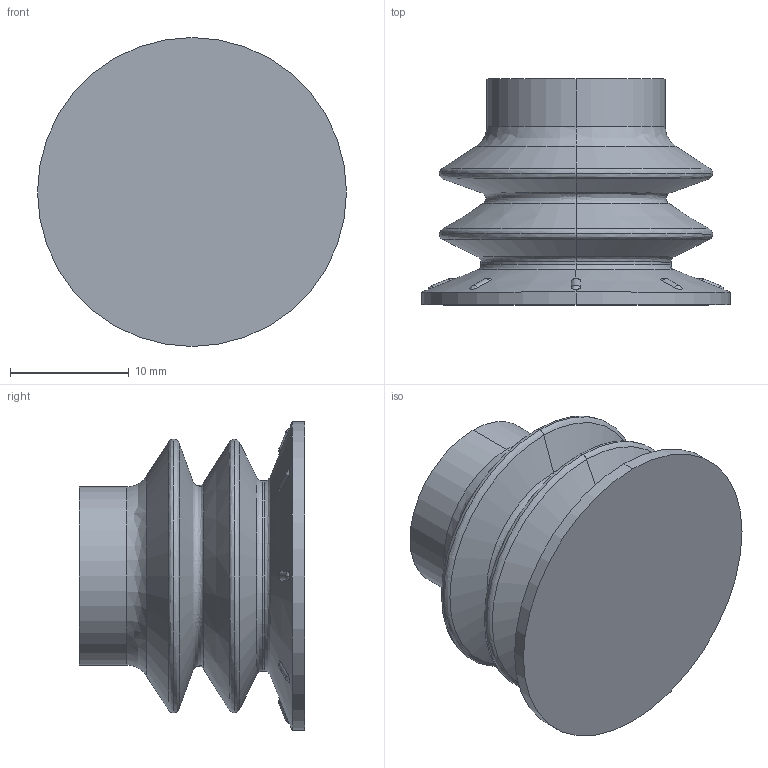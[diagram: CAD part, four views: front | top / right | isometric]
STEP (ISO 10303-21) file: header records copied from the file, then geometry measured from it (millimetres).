
FILE_DESCRIPTION (( 'STEP AP203' ), '1' );
FILE_NAME ('IMC_21.026.177.16.STEP', '2015-05-19T11:40:22', ( '' ), ( '' ), 'SwSTEP 2.0', 'SolidWorks 2010', '' );
FILE_SCHEMA (( 'CONFIG_CONTROL_DESIGN' ));
Length unit declared in the file: millimetre
Products named in the file (1): IMC_21.026.177.16
Bounding box: 26 x 19 x 26 mm (x, y, z)
Volume: 5242.8 mm3; surface area: 2641.9 mm2
Topology: 1 solids, 1 shells, 82 faces, 182 edges, 110 vertices
Faces by surface type: bspline 48, cylinder 20, cone 10, plane 4
Entity records: 3138 total; most frequent: CARTESIAN_POINT 1458, ORIENTED_EDGE 364, DIRECTION 302, EDGE_CURVE 182, AXIS2_PLACEMENT_3D 139, VERTEX_POINT 110, CIRCLE 104, EDGE_LOOP 90
